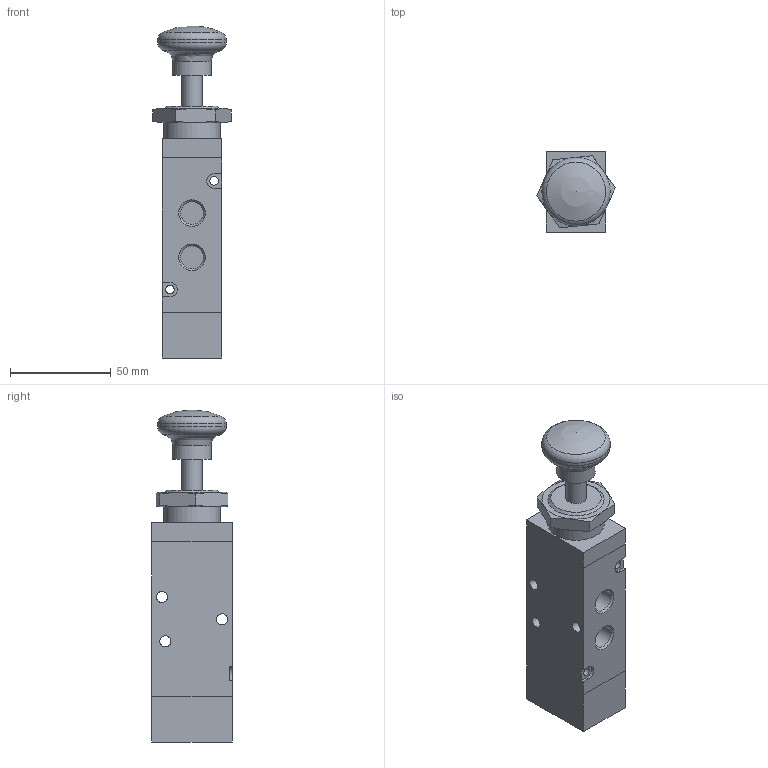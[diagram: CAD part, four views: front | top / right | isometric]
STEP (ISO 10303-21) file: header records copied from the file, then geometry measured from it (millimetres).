
FILE_DESCRIPTION((''),'2;1');
FILE_NAME('I:\Area Tecnica\Disegni\VARIE-3D\Componenti\T200\T224\T224_52_8.stp','2009-07-01T08:25:33',('rivolro1'),(''),'Autodesk Inventor 2010','Autodesk Inventor 2010','');
FILE_SCHEMA(('AUTOMOTIVE_DESIGN { 1 0 10303 214 1 1 1 1 }'));
Length unit declared in the file: millimetre
Products named in the file (3): T224_52_8; RS-214-11
Assembly tree (2 placements, depth 2):
  T224_52_8
    T224_52_8
    RS-214-11
Bounding box: 39.07 x 40 x 165 mm (x, y, z)
Volume: 147234.4 mm3; surface area: 34617.3 mm2
Topology: 7 solids, 7 shells, 74 faces, 155 edges, 99 vertices
Faces by surface type: plane 37, bspline 16, cylinder 12, cone 6, torus 2, sphere 1
Full cylindrical faces by diameter (mm): 4.25 x2, 5.5 x3, 10 x1, 19 x1, 26.6 x1, 28 x1, 34 x1
Entity records: 2106 total; most frequent: CARTESIAN_POINT 548, DIRECTION 282, ORIENTED_EDGE 242, EDGE_CURVE 121, EDGE_LOOP 120, AXIS2_PLACEMENT_3D 110, VERTEX_POINT 95, FACE_OUTER_BOUND 74
